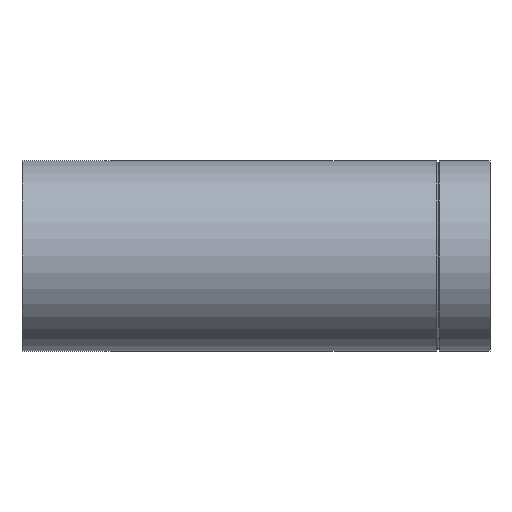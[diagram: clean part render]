
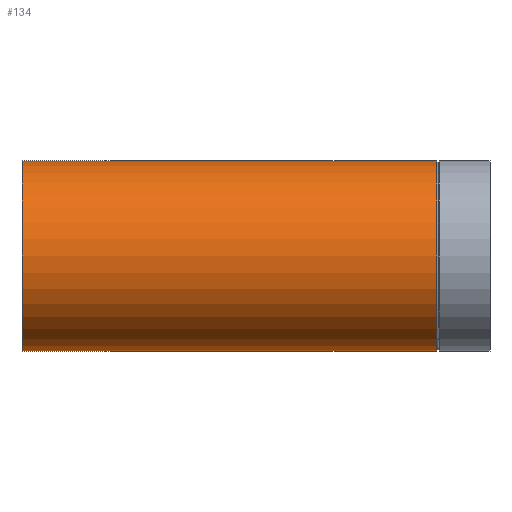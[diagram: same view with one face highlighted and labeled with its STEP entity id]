
A CAD part, left-side view. The second image highlights one B-rep face of the part: STEP entity #134.
In plain terms, the highlighted cylindrical face has radius 55 mm (diameter 110 mm), a full revolution.
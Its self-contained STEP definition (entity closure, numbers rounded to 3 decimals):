
#16=ELLIPSE($,#151,59.532,55.);
#17=ELLIPSE($,#152,143.722,55.);
#20=CYLINDRICAL_SURFACE($,#150,55.);
#27=FACE_BOUND($,#51,.T.);
#28=FACE_BOUND($,#52,.T.);
#29=FACE_BOUND($,#53,.T.);
#51=EDGE_LOOP($,(#108,#109));
#52=EDGE_LOOP($,(#110));
#53=EDGE_LOOP($,(#111));
#71=CIRCLE($,#149,55.);
#72=CIRCLE($,#153,55.);
#80=VERTEX_POINT($,#223);
#81=VERTEX_POINT($,#226);
#82=VERTEX_POINT($,#227);
#83=VERTEX_POINT($,#230);
#93=EDGE_CURVE($,#80,#80,#71,.T.);
#94=EDGE_CURVE($,#81,#82,#16,.T.);
#95=EDGE_CURVE($,#82,#81,#17,.T.);
#96=EDGE_CURVE($,#83,#83,#72,.T.);
#108=ORIENTED_EDGE($,*,*,#94,.T.);
#109=ORIENTED_EDGE($,*,*,#95,.T.);
#110=ORIENTED_EDGE($,*,*,#96,.T.);
#111=ORIENTED_EDGE($,*,*,#93,.T.);
#134=ADVANCED_FACE($,(#27,#28,#29),#20,.T.);
#149=AXIS2_PLACEMENT_3D($,#224,#178,#179);
#150=AXIS2_PLACEMENT_3D($,#225,#180,#181);
#151=AXIS2_PLACEMENT_3D($,#228,#182,#183);
#152=AXIS2_PLACEMENT_3D($,#229,#184,#185);
#153=AXIS2_PLACEMENT_3D($,#231,#186,#187);
#178=DIRECTION('center_axis',(0.,1.,0.));
#179=DIRECTION('ref_axis',(1.,0.,0.));
#180=DIRECTION('center_axis',(0.,1.,0.));
#181=DIRECTION('ref_axis',(1.,0.,0.));
#182=DIRECTION('center_axis',(-0.383,-0.924,0.));
#183=DIRECTION('ref_axis',(0.924,-0.383,0.));
#184=DIRECTION('center_axis',(-0.924,0.383,0.));
#185=DIRECTION('ref_axis',(-0.383,-0.924,0.));
#186=DIRECTION('center_axis',(0.,-1.,0.));
#187=DIRECTION('ref_axis',(1.,0.,0.));
#223=CARTESIAN_POINT('',(55.,30.635,0.));
#224=CARTESIAN_POINT('Origin',(0.,30.635,0.));
#225=CARTESIAN_POINT('Origin',(0.,0.,0.));
#226=CARTESIAN_POINT('',(0.,90.,-55.));
#227=CARTESIAN_POINT('',(0.,90.,55.));
#228=CARTESIAN_POINT('Origin',(0.,90.,0.));
#229=CARTESIAN_POINT('Origin',(0.,90.,0.));
#230=CARTESIAN_POINT('',(-55.,270.,0.));
#231=CARTESIAN_POINT('Origin',(0.,270.,0.));
